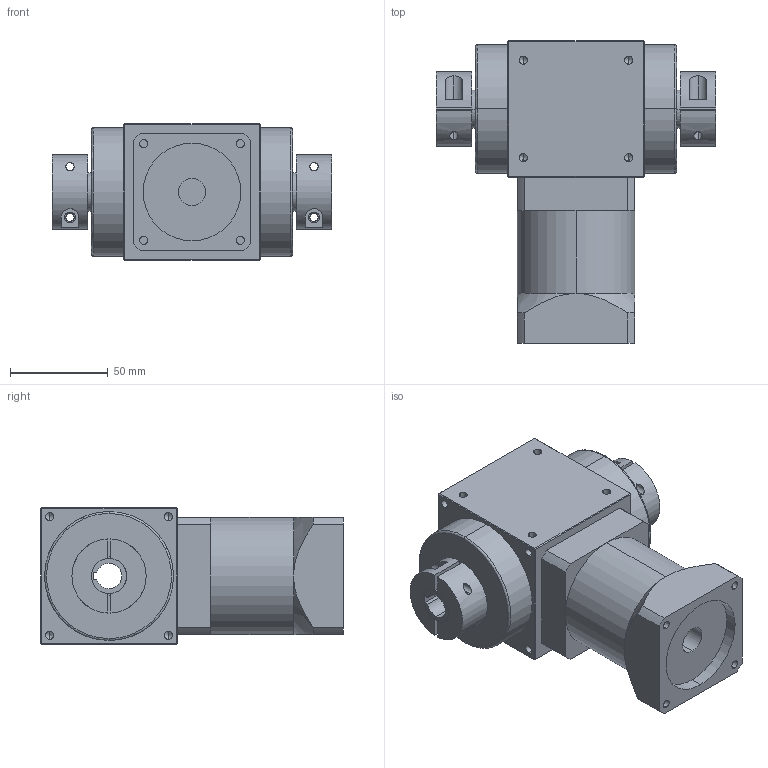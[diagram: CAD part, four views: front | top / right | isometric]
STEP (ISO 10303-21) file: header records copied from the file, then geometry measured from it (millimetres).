
FILE_DESCRIPTION (( 'STEP AP214' ), '1' );
FILE_NAME ('RXW070A-L2-2C-K--400W.STEP', '2020-12-04T09:02:05', ( '微软用户' ), ( '微软中国' ), 'SwSTEP 2.0', 'SolidWorks 2014', '' );
FILE_SCHEMA (( 'AUTOMOTIVE_DESIGN' ));
Length unit declared in the file: millimetre
Products named in the file (2): RXW070A-L2-2C-K--400W
Bounding box: 143 x 155 x 70 mm (x, y, z)
Volume: 721630.9 mm3; surface area: 88115.3 mm2
Topology: 6 solids, 6 shells, 259 faces, 610 edges, 352 vertices
Faces by surface type: cylinder 127, plane 84, cone 44, bspline 4
Entity records: 9998 total; most frequent: CARTESIAN_POINT 1823, DIRECTION 1246, ORIENTED_EDGE 1140, EDGE_CURVE 570, AXIS2_PLACEMENT_3D 479, VERTEX_POINT 352, EDGE_LOOP 314, LINE 288
